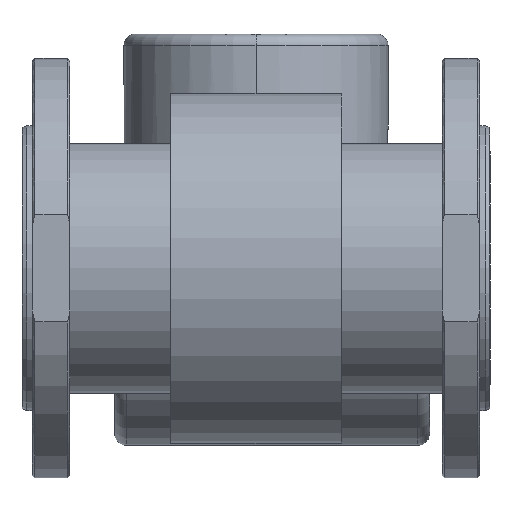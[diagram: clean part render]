
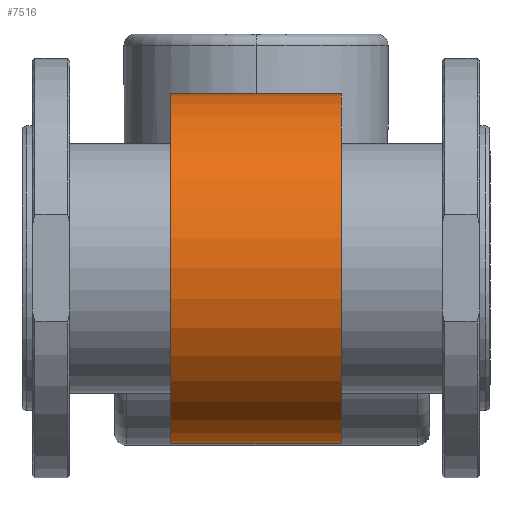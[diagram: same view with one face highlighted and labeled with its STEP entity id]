
A CAD part, front view. The second image highlights one B-rep face of the part: STEP entity #7516.
In plain terms, the highlighted cylindrical face has radius 75 mm (diameter 150 mm), a partial arc.
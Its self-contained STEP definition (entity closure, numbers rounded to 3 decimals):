
#76 = AXIS2_PLACEMENT_3D ( 'NONE', #8425, #369, #5940 ) ;
#165 = DIRECTION ( 'NONE',  ( -1., 0., 0. ) ) ;
#290 = VERTEX_POINT ( 'NONE', #1515 ) ;
#369 = DIRECTION ( 'NONE',  ( -1., 0., 0. ) ) ;
#543 = AXIS2_PLACEMENT_3D ( 'NONE', #10264, #3953, #1630 ) ;
#645 = CYLINDRICAL_SURFACE ( 'NONE', #76, 75. ) ;
#998 = EDGE_CURVE ( 'NONE', #8046, #290, #5652, .T. ) ;
#1515 = CARTESIAN_POINT ( 'NONE',  ( -36.5, 0., 75. ) ) ;
#1630 = DIRECTION ( 'NONE',  ( 0., 0., 1. ) ) ;
#1899 = CARTESIAN_POINT ( 'NONE',  ( 36.5, 0., 75. ) ) ;
#1949 = CARTESIAN_POINT ( 'NONE',  ( -110.231, 0., -75. ) ) ;
#2058 = ORIENTED_EDGE ( 'NONE', *, *, #8632, .T. ) ;
#2613 = ORIENTED_EDGE ( 'NONE', *, *, #998, .F. ) ;
#2683 = VERTEX_POINT ( 'NONE', #8126 ) ;
#3305 = CARTESIAN_POINT ( 'NONE',  ( -110.231, 0., 75. ) ) ;
#3417 = ORIENTED_EDGE ( 'NONE', *, *, #3901, .F. ) ;
#3739 = VECTOR ( 'NONE', #7411, 1000. ) ;
#3901 = EDGE_CURVE ( 'NONE', #2683, #8046, #5624, .T. ) ;
#3953 = DIRECTION ( 'NONE',  ( -1., 0., 0. ) ) ;
#4486 = CARTESIAN_POINT ( 'NONE',  ( -36.5, 0., -75. ) ) ;
#4850 = ORIENTED_EDGE ( 'NONE', *, *, #10205, .T. ) ;
#4948 = VERTEX_POINT ( 'NONE', #1899 ) ;
#4996 = DIRECTION ( 'NONE',  ( 0., 0., 1. ) ) ;
#5546 = CIRCLE ( 'NONE', #543, 75. ) ;
#5624 = LINE ( 'NONE', #1949, #3739 ) ;
#5652 = CIRCLE ( 'NONE', #8174, 75. ) ;
#5781 = CARTESIAN_POINT ( 'NONE',  ( -36.5, 0., 0. ) ) ;
#5940 = DIRECTION ( 'NONE',  ( 0., 0., 1. ) ) ;
#6557 = EDGE_LOOP ( 'NONE', ( #3417, #2058, #4850, #2613 ) ) ;
#7411 = DIRECTION ( 'NONE',  ( -1., 0., 0. ) ) ;
#7516 = ADVANCED_FACE ( 'NONE', ( #8142 ), #645, .T. ) ;
#8046 = VERTEX_POINT ( 'NONE', #4486 ) ;
#8126 = CARTESIAN_POINT ( 'NONE',  ( 36.5, 0., -75. ) ) ;
#8142 = FACE_OUTER_BOUND ( 'NONE', #6557, .T. ) ;
#8174 = AXIS2_PLACEMENT_3D ( 'NONE', #5781, #8967, #4996 ) ;
#8425 = CARTESIAN_POINT ( 'NONE',  ( -110.231, 0., 0. ) ) ;
#8632 = EDGE_CURVE ( 'NONE', #2683, #4948, #5546, .T. ) ;
#8656 = VECTOR ( 'NONE', #165, 1000. ) ;
#8967 = DIRECTION ( 'NONE',  ( -1., 0., 0. ) ) ;
#9761 = LINE ( 'NONE', #3305, #8656 ) ;
#10205 = EDGE_CURVE ( 'NONE', #4948, #290, #9761, .T. ) ;
#10264 = CARTESIAN_POINT ( 'NONE',  ( 36.5, 0., 0. ) ) ;
